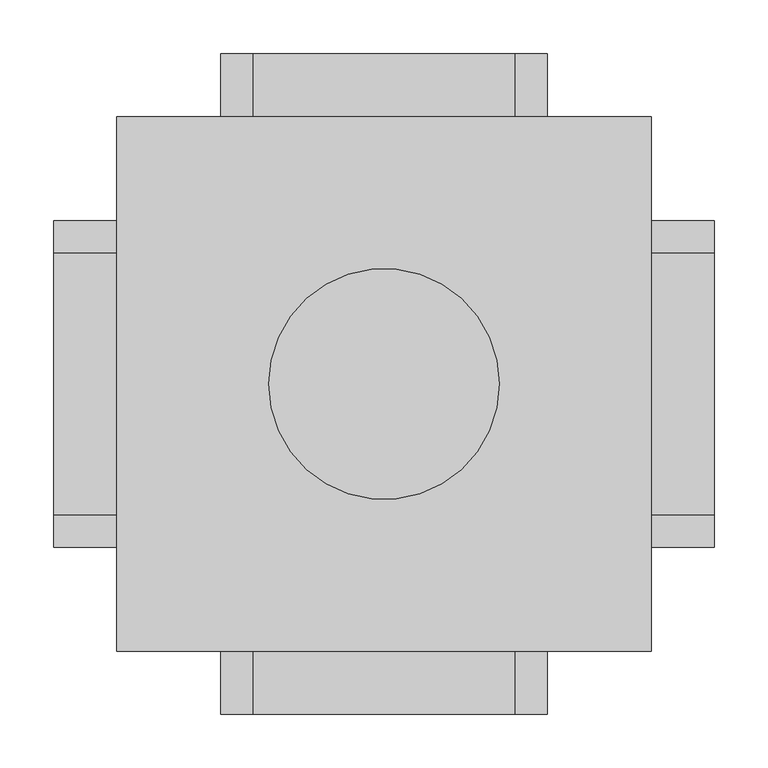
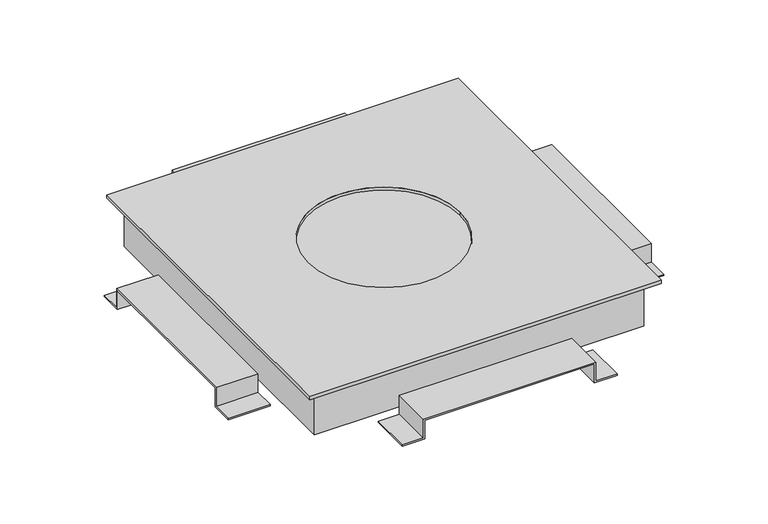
"""IFC4 building model written with IfcOpenShell, lengths in millimetres: cable carrier fitting geometry, Electrical-Installations_Hager_Universal-Junction-Box-With-Retaining-Tabs-Size-3 : Universal junction box with retaining tabs size 3."""

import ifcopenshell
import ifcopenshell.guid

model = None  # the IFC model being written
_history = None  # IfcOwnerHistory: only IFC2X3 demands one
_inside = {}  # id of a spatial element -> (the spatial element, [elements in it])
_under = {}  # id of a project, library or spatial element -> (it, [spatial elements below it])
_declared = {}  # id of a project -> (the project, [libraries it declares])
_typed = {}  # id of a type object -> (the type object, [elements of that type])
_made_of = {}  # id of a material, layer set ... -> (it, [elements and type objects made of it])


def new_model(schema):
    """Start an empty IFC model of exactly this schema.

    Asked for "IFC4X3", IfcOpenShell would pick the latest addendum, in which some entities
    have other attributes; the version numbers below select the first issue.
    IFC2X3 requires an IfcOwnerHistory on every rooted entity: one is made here for all.
    """
    global model, _history
    if schema == "IFC4X3":
        model = ifcopenshell.file(schema_version=(4, 3, 0, 0))
    else:
        model = ifcopenshell.file(schema=schema)
    _inside.clear()
    _under.clear()
    _declared.clear()
    _typed.clear()
    _made_of.clear()
    _history = None
    if model.schema == "IFC2X3":
        org = make("IfcOrganization", Name="unknown")
        user = make(
            "IfcPersonAndOrganization",
            ThePerson=make("IfcPerson", FamilyName="unknown"),
            TheOrganization=org,
        )
        app = make(
            "IfcApplication",
            ApplicationDeveloper=org,
            Version="unknown",
            ApplicationFullName="unknown",
            ApplicationIdentifier="unknown",
        )
        _history = make(
            "IfcOwnerHistory",
            OwningUser=user,
            OwningApplication=app,
            ChangeAction="ADDED",
            CreationDate=0,
        )
    return model


def make(cls, **values):
    """One entity of the class cls with the attributes given. An attribute that is None is left unset."""
    return model.create_entity(
        cls, **{name: value for name, value in values.items() if value is not None}
    )


def rooted(cls, **values):
    """An entity with a GlobalId (a new one), such as an element, a storey or a relation."""
    return make(cls, GlobalId=ifcopenshell.guid.new(), OwnerHistory=_history, **values)


def si_unit(unit_type, name, prefix=None):
    """IfcSIUnit, for example si_unit("LENGTHUNIT", "METRE", prefix="MILLI")."""
    return make("IfcSIUnit", UnitType=unit_type, Prefix=prefix, Name=name)


def assignment(units):
    """IfcUnitAssignment: the units of a project."""
    return None if units is None else make("IfcUnitAssignment", Units=units)


def point(xyz):
    """IfcCartesianPoint."""
    return None if xyz is None else make("IfcCartesianPoint", Coordinates=xyz)


def direction(xyz):
    """IfcDirection."""
    return None if xyz is None else make("IfcDirection", DirectionRatios=xyz)


def frame(location, z_axis=None, x_axis=None):
    """IfcAxis2Placement3D, a coordinate frame: its origin and axes. An axis left out is left unset."""
    return make(
        "IfcAxis2Placement3D",
        Location=point(location),
        Axis=direction(z_axis),
        RefDirection=direction(x_axis),
    )


def origin():
    """The frame at (0, 0, 0) with its axes left unset."""
    return frame((0.0, 0.0, 0.0))


def place(relative_to, where):
    """IfcLocalPlacement: puts the frame where relative to a parent placement (None: the world)."""
    return make(
        "IfcLocalPlacement", PlacementRelTo=relative_to, RelativePlacement=where
    )


def context(
    kind, dimensions, precision=None, world=None, true_north=None, identifier=None
):
    """IfcGeometricRepresentationContext, for example the 3D "Model" context."""
    return make(
        "IfcGeometricRepresentationContext",
        ContextIdentifier=identifier,
        ContextType=kind,
        CoordinateSpaceDimension=dimensions,
        Precision=precision,
        WorldCoordinateSystem=world,
        TrueNorth=true_north,
    )


def project(units=None, contexts=None):
    """IfcProject with its units and contexts."""
    return rooted(
        "IfcProject",
        Name="project",
        RepresentationContexts=contexts,
        UnitsInContext=assignment(units),
    )


def spatial(cls, under=None, at=None, **own):
    """A site, building, storey or space (cls), placed at a placement, below another one or the project."""
    s = rooted(cls, ObjectPlacement=at, **own)
    if under is not None:
        _under.setdefault(under.id(), (under, []))[1].append(s)
    return s


def polyline(points):
    """IfcPolyline through the points."""
    return make("IfcPolyline", Points=[point(p) for p in points])


def circle_curve(where, radius):
    """IfcCircle in the frame where."""
    return make("IfcCircle", Position=where, Radius=radius)


def outline(outer, holes=None, kind="AREA"):
    """IfcArbitraryClosedProfileDef: a profile drawn as a closed curve; with holes, ...WithVoids."""
    if holes is None:
        return make("IfcArbitraryClosedProfileDef", ProfileType=kind, OuterCurve=outer)
    return make(
        "IfcArbitraryProfileDefWithVoids",
        ProfileType=kind,
        OuterCurve=outer,
        InnerCurves=holes,
    )


def extrude(swept, where, along, depth):
    """IfcExtrudedAreaSolid: the profile swept, set in the frame where, extruded along a direction by depth."""
    return make(
        "IfcExtrudedAreaSolid",
        SweptArea=swept,
        Position=where,
        ExtrudedDirection=direction(along),
        Depth=depth,
    )


def faces_of(points, faces, orient=None, outer=None):
    """IfcFace entities. A face is a list of loops; a loop is a list of indices into points, from 0.

    orient and outer hold one flag for each loop. By default every Orientation is true, the
    first loop of a face is its IfcFaceOuterBound and the others are IfcFaceBound.
    """
    made = []
    for i, loops in enumerate(faces):
        bounds = []
        for j, loop in enumerate(loops):
            is_outer = j == 0 if outer is None else outer[i][j]
            bounds.append(
                make(
                    "IfcFaceOuterBound" if is_outer else "IfcFaceBound",
                    Bound=make("IfcPolyLoop", Polygon=[points[k] for k in loop]),
                    Orientation=True if orient is None else orient[i][j],
                )
            )
        made.append(make("IfcFace", Bounds=bounds))
    return made


def faceted_brep(points, faces, orient=None, outer=None, voids=None):
    """IfcFacetedBrep: a solid bounded by flat faces; with voids (closed shells), ...WithVoids."""
    shared = [point(p) for p in points]
    hull = make("IfcClosedShell", CfsFaces=faces_of(shared, faces, orient, outer))
    if voids is None:
        return make("IfcFacetedBrep", Outer=hull)
    return make(
        "IfcFacetedBrepWithVoids",
        Outer=hull,
        Voids=[
            make(cls, CfsFaces=faces_of(shared, fs, o, b)) for cls, fs, o, b in voids
        ],
    )


def shape(context_of_items, identifier, shape_type, items):
    """IfcShapeRepresentation: the items that make up one representation, for example the "Body"."""
    return make(
        "IfcShapeRepresentation",
        ContextOfItems=context_of_items,
        RepresentationIdentifier=identifier,
        RepresentationType=shape_type,
        Items=items,
    )


def source(mapping_origin, context_of_items, identifier, shape_type, items):
    """IfcRepresentationMap: a shape defined once, which mapped items show again and again."""
    return make(
        "IfcRepresentationMap",
        MappingOrigin=mapping_origin,
        MappedRepresentation=shape(context_of_items, identifier, shape_type, items),
    )


def transform(
    local_origin,
    x_axis=None,
    y_axis=None,
    z_axis=None,
    scale=None,
    scale2=None,
    scale3=None,
    uniform=True,
):
    """IfcCartesianTransformationOperator3D, or its non-uniform kind. x_axis, y_axis, z_axis: its Axis1, 2, 3."""
    if uniform:
        return make(
            "IfcCartesianTransformationOperator3D",
            Axis1=direction(x_axis),
            Axis2=direction(y_axis),
            LocalOrigin=point(local_origin),
            Scale=scale,
            Axis3=direction(z_axis),
        )
    return make(
        "IfcCartesianTransformationOperator3DnonUniform",
        Axis1=direction(x_axis),
        Axis2=direction(y_axis),
        LocalOrigin=point(local_origin),
        Scale=scale,
        Axis3=direction(z_axis),
        Scale2=scale2,
        Scale3=scale3,
    )


def mapped(mapping_source, mapping_target):
    """IfcMappedItem: shows the shape of a source again, moved by a transform."""
    return make(
        "IfcMappedItem", MappingSource=mapping_source, MappingTarget=mapping_target
    )


def made_of(thing, what):
    """Note that an element or type object is made of a material, layer set ...; save() writes the relation."""
    if what is not None:
        _made_of.setdefault(what.id(), (what, []))[1].append(thing)
    return thing


def element(
    cls,
    number,
    at=None,
    inside=None,
    cuts=None,
    type_object=None,
    material=None,
    context=None,
    identifier="Body",
    shape_type=None,
    held_by="IfcProductDefinitionShape",
    body=None,
    shapes=None,
    **own,
):
    """One element of the class cls, such as IfcWall. Its Tag is "e" and its number.

    at: its placement. inside: the storey or other place that contains it. cuts: it is an
    opening in that element (IfcRelVoidsElement). A single representation is given by context,
    identifier, shape_type and body (its items); several are given by shapes. held_by: the class
    of the entity that holds the representations. save() writes the other relations.
    """
    e = rooted(cls, Tag="e%d" % number, ObjectPlacement=at, **own)
    if body is not None:
        shapes = [shape(context, identifier, shape_type, body)]
    if shapes is not None:
        e.Representation = make(held_by, Representations=shapes)
    if inside is not None:
        _inside.setdefault(inside.id(), (inside, []))[1].append(e)
    if cuts is not None:
        rooted(
            "IfcRelVoidsElement", RelatingBuildingElement=cuts, RelatedOpeningElement=e
        )
    if type_object is not None:
        _typed.setdefault(type_object.id(), (type_object, []))[1].append(e)
    return made_of(e, material)


def aggregate(whole, parts):
    """IfcRelAggregates: a whole, such as a stair, and the parts it consists of."""
    return rooted("IfcRelAggregates", RelatingObject=whole, RelatedObjects=parts)


def save(model, path):
    """Write the relations noted so far, then the file.

    IfcRelAggregates (storeys below a building ...), IfcRelContainedInSpatialStructure (elements
    in a storey), IfcRelDefinesByType, IfcRelAssociatesMaterial and IfcRelDeclares: one each for
    every whole, place, type object, material and project.
    """
    for whole, parts in _under.values():
        aggregate(whole, parts)
    for where, things in _inside.values():
        rooted(
            "IfcRelContainedInSpatialStructure",
            RelatedElements=things,
            RelatingStructure=where,
        )
    for kind, things in _typed.values():
        rooted("IfcRelDefinesByType", RelatedObjects=things, RelatingType=kind)
    for what, things in _made_of.values():
        rooted("IfcRelAssociatesMaterial", RelatedObjects=things, RelatingMaterial=what)
    for by, libraries in _declared.values():
        rooted("IfcRelDeclares", RelatingContext=by, RelatedDefinitions=libraries)
    model.write(path)


def plane_surface(at):
    """IfcPlane: the flat surface through the origin of the frame at, square to its z axis."""
    return make("IfcPlane", Position=at)


def revolved_surface(curve, axis_point, axis_direction):
    """IfcSurfaceOfRevolution: the curve turned about the line through axis_point along axis_direction."""
    return make(
        "IfcSurfaceOfRevolution",
        SweptCurve=make("IfcArbitraryOpenProfileDef", ProfileType="CURVE", Curve=curve),
        AxisPosition=make("IfcAxis1Placement", Location=point(axis_point), Axis=direction(axis_direction)),
    )


def advanced_brep(points, edges, surfaces, faces):
    """IfcAdvancedBrep: a solid bounded by faces that lie on surfaces and meet in shared edges.

    An edge is (start, end): straight between two places in points (the first is 0);
    or (start, end, curve); or (start, end, curve, False) where it runs against its curve.
    A face is (place in surfaces, loops), or (place, loops, False) where it looks against
    its surface's normal. A loop lists edges by number (the first is 1), with a minus sign
    where the edge is run from its end to its start. The first loop is the outer one.
    """
    corners = [point(p) for p in points]
    vertices = [make("IfcVertexPoint", VertexGeometry=c) for c in corners]
    made = []
    for start, end, *more in edges:
        made.append(
            make(
                "IfcEdgeCurve",
                EdgeStart=vertices[start],
                EdgeEnd=vertices[end],
                EdgeGeometry=more[0] if more else make("IfcPolyline", Points=[corners[start], corners[end]]),
                SameSense=more[1] if len(more) > 1 else True,
            )
        )
    hull = []
    for where, loops, *sense in faces:
        bounds = []
        for j, loop in enumerate(loops):
            ring = [make("IfcOrientedEdge", EdgeElement=made[abs(k) - 1], Orientation=k > 0) for k in loop]
            bounds.append(
                make(
                    "IfcFaceOuterBound" if j == 0 else "IfcFaceBound",
                    Bound=make("IfcEdgeLoop", EdgeList=ring),
                    Orientation=True,
                )
            )
        hull.append(make("IfcAdvancedFace", Bounds=bounds, FaceSurface=surfaces[where], SameSense=sense[0] if sense else True))
    return make("IfcAdvancedBrep", Outer=make("IfcClosedShell", CfsFaces=hull))


def cable_carrier_fitting_0547c750(model_context):
    return source(origin(), model_context, "Body", "SolidModel", [
        extrude(outline(polyline([(-14.0, -152.0), (-14.0, -120.0), (14.0, -120.0), (14.0, 120.0), (-14.0, 120.0), (-14.0, 152.0), (-12.0, 152.0), (-12.0, 122.0), (16.0, 122.0), (16.0, -122.0), (-12.0, -122.0), (-12.0, -152.0), (-14.0, -152.0)])), frame((0.0, 249.0, 0.0), z_axis=(0.0, 1.0, 0.0), x_axis=(0.0, 0.0, 1.0)), (0.0, 0.0, 1.0), 59.0),
        extrude(outline(polyline([(-152.0, -14.0), (-152.0, -12.0), (-122.0, -12.0), (-122.0, 16.0), (122.0, 16.0), (122.0, -12.0), (152.0, -12.0), (152.0, -14.0), (120.0, -14.0), (120.0, 14.0), (-120.0, 14.0), (-120.0, -14.0), (-152.0, -14.0)])), frame((-308.0, 0.0, 0.0), z_axis=(1.0, 0.0, 0.0), x_axis=(0.0, 1.0, 0.0)), (0.0, 0.0, 1.0), 59.0),
        extrude(outline(polyline([(-14.0, -152.0), (-14.0, -120.0), (14.0, -120.0), (14.0, 120.0), (-14.0, 120.0), (-14.0, 152.0), (-12.0, 152.0), (-12.0, 122.0), (16.0, 122.0), (16.0, -122.0), (-12.0, -122.0), (-12.0, -152.0), (-14.0, -152.0)])), frame((0.0, -308.0, 0.0), z_axis=(0.0, 1.0, 0.0), x_axis=(0.0, 0.0, 1.0)), (0.0, 0.0, 1.0), 59.0),
        extrude(outline(polyline([(-152.0, -14.0), (-152.0, -12.0), (-122.0, -12.0), (-122.0, 16.0), (122.0, 16.0), (122.0, -12.0), (152.0, -12.0), (152.0, -14.0), (120.0, -14.0), (120.0, 14.0), (-120.0, 14.0), (-120.0, -14.0), (-152.0, -14.0)])), frame((249.0, 0.0, 0.0), z_axis=(1.0, 0.0, 0.0), x_axis=(0.0, 1.0, 0.0)), (0.0, 0.0, 1.0), 59.0),
        advanced_brep(
        [(-249.0, -249.0, 59.0), (249.0, -249.0, 59.0), (249.0, 249.0, 59.0), (-249.0, 249.0, 59.0), (-107.5, 0.0, 59.0), (107.5, 0.0, 59.0), (-249.0, -249.0, 54.0), (-249.0, 249.0, 54.0), (249.0, 249.0, 54.0), (249.0, -249.0, 54.0), (227.0, 227.0, 54.0), (-227.0, 227.0, 54.0), (-227.0, -227.0, 54.0), (227.0, -227.0, 54.0), (-107.5, 0.0, 54.7820613), (107.5, 0.0, 54.7820613), (227.0, 227.0, 54.7820613), (227.0, -227.0, 54.7820613), (-227.0, -227.0, 54.7820613), (-227.0, 227.0, 54.7820613)],
        [
            (0, 1),
            (1, 2),
            (2, 3),
            (3, 0),
            (4, 5, circle_curve(frame((0.0, 0.0, 59.0), z_axis=(0.0, 0.0, -1.0), x_axis=(1.0, 0.0, 0.0)), 107.5)),
            (5, 4, circle_curve(frame((0.0, 0.0, 59.0), z_axis=(0.0, 0.0, -1.0), x_axis=(1.0, 0.0, 0.0)), 107.5)),
            (6, 7),
            (7, 8),
            (8, 9),
            (9, 6),
            (10, 11),
            (11, 12),
            (12, 13),
            (13, 10),
            (0, 6),
            (9, 1),
            (8, 2),
            (7, 3),
            (4, 14),
            (14, 15, circle_curve(frame((0.0, 0.0, 54.7820613), z_axis=(0.0, 0.0, -1.0), x_axis=(1.0, 0.0, 0.0)), 107.5)),
            (15, 5),
            (15, 14, circle_curve(frame((0.0, 0.0, 54.7820613), z_axis=(0.0, 0.0, -1.0), x_axis=(1.0, 0.0, 0.0)), 107.5)),
            (16, 17),
            (17, 18),
            (18, 19),
            (19, 16),
            (19, 11),
            (10, 16),
            (18, 12),
            (17, 13),
        ],
        [
            plane_surface(frame((-249.0, -249.0, 59.0), z_axis=(0.0, 0.0, 1.0), x_axis=(1.0, 0.0, 0.0))),
            plane_surface(frame((-249.0, -249.0, 54.0), z_axis=(0.0, 0.0, -1.0), x_axis=(-1.0, 0.0, 0.0))),
            plane_surface(frame((-249.0, -249.0, 59.0), z_axis=(0.0, -1.0, 0.0), x_axis=(0.0, 0.0, -1.0))),
            plane_surface(frame((249.0, -249.0, 59.0), z_axis=(1.0, 0.0, 0.0), x_axis=(0.0, 0.0, -1.0))),
            plane_surface(frame((249.0, 249.0, 59.0), z_axis=(0.0, 1.0, 0.0), x_axis=(0.0, 0.0, -1.0))),
            plane_surface(frame((-249.0, 249.0, 59.0), z_axis=(-1.0, 0.0, 0.0), x_axis=(0.0, 0.0, -1.0))),
            revolved_surface(polyline([(107.5, 0.0, 54.7820613), (107.5, 0.0, 59.0)]), (0.0, 0.0, 0.0), (0.0, 0.0, -1.0)),
            plane_surface(frame((-227.0, 227.0, 54.7820613), z_axis=(0.0, 0.0, -1.0), x_axis=(-1.0, 0.0, 0.0))),
            plane_surface(frame((227.0, 227.0, 54.7820613), z_axis=(0.0, -1.0, 0.0), x_axis=(0.0, 0.0, -1.0))),
            plane_surface(frame((-227.0, 227.0, 54.7820613), z_axis=(1.0, 0.0, 0.0), x_axis=(0.0, 0.0, -1.0))),
            plane_surface(frame((-227.0, -227.0, 54.7820613), z_axis=(0.0, 1.0, 0.0), x_axis=(0.0, 0.0, -1.0))),
            plane_surface(frame((227.0, -227.0, 54.7820613), z_axis=(-1.0, 0.0, 0.0), x_axis=(0.0, 0.0, -1.0))),
        ],
        [
            (0, [[1, 2, 3, 4], [5, 6]]),
            (1, [[7, 8, 9, 10], [11, 12, 13, 14]]),
            (2, [[-1, 15, -10, 16]]),
            (3, [[-2, -16, -9, 17]]),
            (4, [[-3, -17, -8, 18]]),
            (5, [[-4, -18, -7, -15]]),
            (6, [[-5, 19, 20, 21]]),
            (6, [[-6, -21, 22, -19]]),
            (7, [[23, 24, 25, 26], [-20, -22]]),
            (8, [[-26, 27, -11, 28]]),
            (9, [[-25, 29, -12, -27]]),
            (10, [[-24, 30, -13, -29]]),
            (11, [[-23, -28, -14, -30]]),
        ],
    ),
        faceted_brep([(-233.0, 233.0, 54.0), (-233.0, -233.0, 54.0), (233.0, -233.0, 54.0), (233.0, 233.0, 54.0), (-227.0, 227.0, 54.0), (227.0, 227.0, 54.0), (227.0, -227.0, 54.0), (-227.0, -227.0, 54.0), (-233.0, 233.0, -14.0), (233.0, 233.0, -14.0), (233.0, -233.0, -14.0), (-233.0, -233.0, -14.0), (227.0, 227.0, -6.1362798), (-227.0, 227.0, -6.1362798), (-227.0, -227.0, -6.1362798), (227.0, -227.0, -6.1362798)], [[[0, 1, 2, 3], [4, 5, 6, 7]], [[8, 9, 10, 11]], [[1, 0, 8, 11]], [[2, 1, 11, 10]], [[3, 2, 10, 9]], [[0, 3, 9, 8]], [[12, 13, 14, 15]], [[13, 12, 5, 4]], [[14, 13, 4, 7]], [[15, 14, 7, 6]], [[12, 15, 6, 5]]]),
    ])


if __name__ == "__main__":
    model = new_model("IFC4")
    model_context = context("Model", 3, world=origin())
    ifc_project = project(units=[si_unit("LENGTHUNIT", "METRE", prefix="MILLI")], contexts=[model_context])
    site = spatial("IfcSite", under=ifc_project)
    building = spatial("IfcBuilding", under=site)
    placement = place(None, origin())
    cable_carrier_fitting_shape = cable_carrier_fitting_0547c750(model_context)
    element("IfcCableCarrierFitting", 1, ObjectType="Electrical-Installations_Hager_Universal-Junction-Box-With-Retaining-Tabs-Size-3 : Universal junction box with retaining tabs size 3", at=placement, inside=building, context=model_context, shape_type="MappedRepresentation", body=[
        mapped(cable_carrier_fitting_shape, transform((0.0, 0.0, 0.0), x_axis=(1.0, 0.0, 0.0), y_axis=(0.0, 1.0, 0.0), z_axis=(0.0, 0.0, 1.0))),
    ])
    save(model, "model.ifc")
